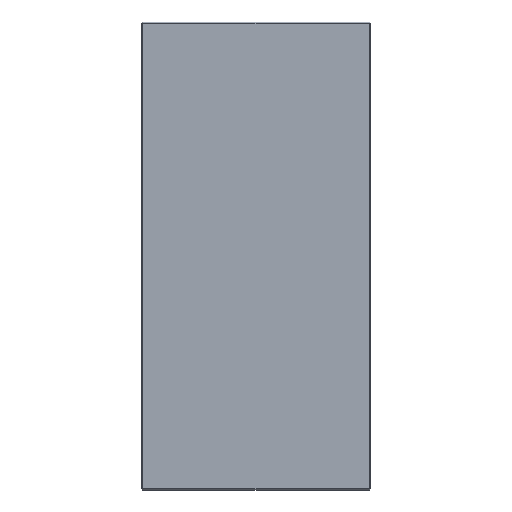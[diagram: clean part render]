
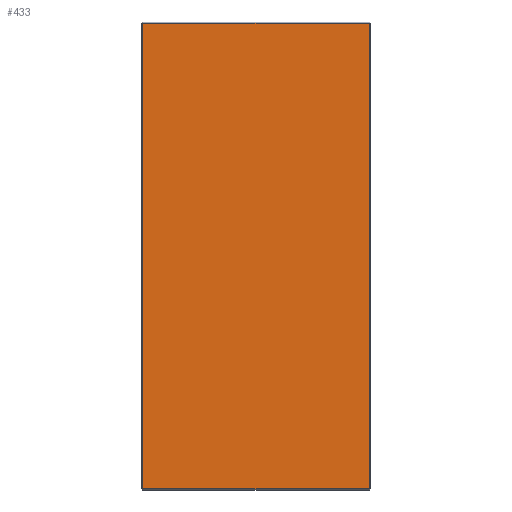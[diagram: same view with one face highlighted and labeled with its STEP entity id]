
A CAD part, top view. The second image highlights one B-rep face of the part: STEP entity #433.
In plain terms, the highlighted planar face has unit normal (0, 0, 1).
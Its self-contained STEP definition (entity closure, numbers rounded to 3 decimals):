
#1 = ORIENTED_EDGE ( 'NONE', *, *, #243, .T. ) ;
#12 = LINE ( 'NONE', #534, #392 ) ;
#32 = CARTESIAN_POINT ( 'NONE',  ( 0., 0., 22. ) ) ;
#62 = VECTOR ( 'NONE', #439, 1000. ) ;
#64 = CARTESIAN_POINT ( 'NONE',  ( 108., -222., 22. ) ) ;
#75 = EDGE_CURVE ( 'NONE', #187, #241, #220, .T. ) ;
#119 = LINE ( 'NONE', #382, #363 ) ;
#129 = VECTOR ( 'NONE', #537, 1000. ) ;
#159 = DIRECTION ( 'NONE',  ( 0., 1., 0. ) ) ;
#163 = EDGE_CURVE ( 'NONE', #241, #197, #119, .T. ) ;
#177 = LINE ( 'NONE', #573, #62 ) ;
#187 = VERTEX_POINT ( 'NONE', #422 ) ;
#197 = VERTEX_POINT ( 'NONE', #629 ) ;
#220 = LINE ( 'NONE', #568, #129 ) ;
#223 = AXIS2_PLACEMENT_3D ( 'NONE', #32, #321, #388 ) ;
#241 = VERTEX_POINT ( 'NONE', #527 ) ;
#243 = EDGE_CURVE ( 'NONE', #197, #306, #177, .T. ) ;
#283 = ORIENTED_EDGE ( 'NONE', *, *, #163, .T. ) ;
#306 = VERTEX_POINT ( 'NONE', #64 ) ;
#316 = DIRECTION ( 'NONE',  ( 0., -1., 0. ) ) ;
#321 = DIRECTION ( 'NONE',  ( 0., 0., 1. ) ) ;
#345 = FACE_OUTER_BOUND ( 'NONE', #389, .T. ) ;
#363 = VECTOR ( 'NONE', #316, 1000. ) ;
#382 = CARTESIAN_POINT ( 'NONE',  ( -108., -223., 22. ) ) ;
#388 = DIRECTION ( 'NONE',  ( 1., 0., 0. ) ) ;
#389 = EDGE_LOOP ( 'NONE', ( #621, #607, #283, #1 ) ) ;
#392 = VECTOR ( 'NONE', #159, 1000. ) ;
#422 = CARTESIAN_POINT ( 'NONE',  ( 108., 222., 22. ) ) ;
#433 = ADVANCED_FACE ( 'NONE', ( #345 ), #545, .T. ) ;
#439 = DIRECTION ( 'NONE',  ( 1., 0., 0. ) ) ;
#527 = CARTESIAN_POINT ( 'NONE',  ( -108., 222., 22. ) ) ;
#534 = CARTESIAN_POINT ( 'NONE',  ( 108., 223., 22. ) ) ;
#537 = DIRECTION ( 'NONE',  ( -1., 0., 0. ) ) ;
#545 = PLANE ( 'NONE',  #223 ) ;
#568 = CARTESIAN_POINT ( 'NONE',  ( -109., 222., 22. ) ) ;
#573 = CARTESIAN_POINT ( 'NONE',  ( 109., -222., 22. ) ) ;
#607 = ORIENTED_EDGE ( 'NONE', *, *, #75, .T. ) ;
#621 = ORIENTED_EDGE ( 'NONE', *, *, #631, .T. ) ;
#629 = CARTESIAN_POINT ( 'NONE',  ( -108., -222., 22. ) ) ;
#631 = EDGE_CURVE ( 'NONE', #306, #187, #12, .T. ) ;
